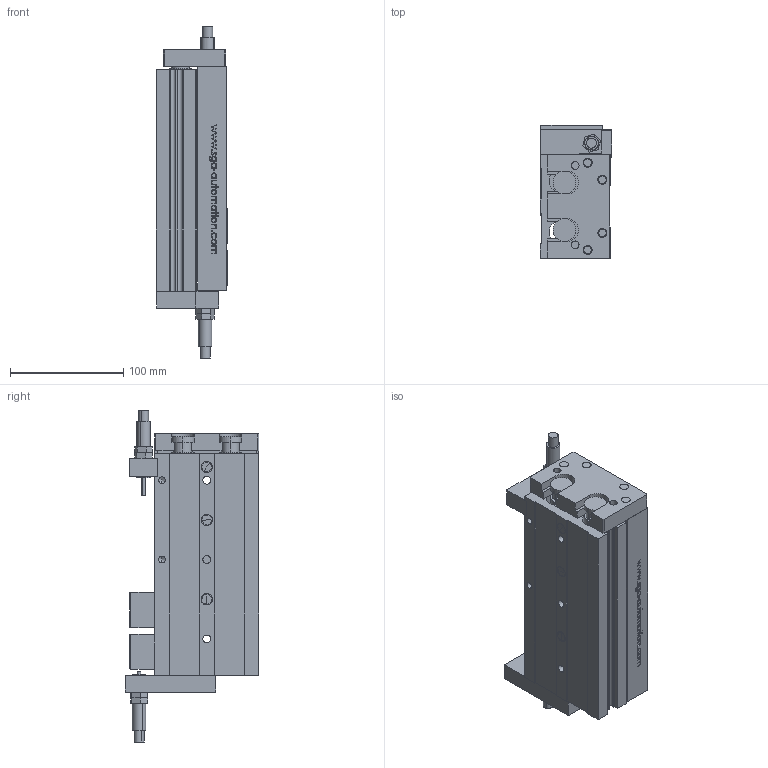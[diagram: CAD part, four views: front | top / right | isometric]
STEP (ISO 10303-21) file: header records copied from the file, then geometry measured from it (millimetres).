
FILE_DESCRIPTION (( 'STEP AP203' ), '1' );
FILE_NAME ('GDX25-100.STEP', '2013-02-28T11:00:52', ( 'Conseil Régional Haute-Normandie' ), ( 'Conseil Régional Haute-Normandie' ), 'SwSTEP 2.0', 'SolidWorks 2010', '' );
FILE_SCHEMA (( 'CONFIG_CONTROL_DESIGN' ));
Length unit declared in the file: millimetre
Products named in the file (18): Pièce5 GDX25-100_Default; Pièce1 GDX25-10_Default; Pièce8 tige amortisseur GDX25-10_Default; Pièce4 GDX25-10_Default; Pièce2 GDX25-10 Vis pièce1_Default; GDX25-100; Pièce6 GDX25-100_Default; Pièce4_Default; Pièce3 GDX25-100_Default; Pièce2 GDX25-100_Default; Pièce3 GDX25-10_Default; Pièce5 GDX25-10_Default; Pièce6 boulon GDX25-10_Default; Pièce7 amortisseur GDX25-10_Default; Pièce10 GDX25-10_Default; Pièce11 GDX25-10_Default; Pièce16 GDX 25-10_Default; Pièce17 GDX 25-10_Default
Assembly tree (39 placements, depth 2):
  GDX25-100
    Pièce11 GDX25-10_Default  x2
    Pièce4_Default
    Pièce17 GDX 25-10_Default  x10
    Pièce6 boulon GDX25-10_Default  x4
    Pièce2 GDX25-100_Default
    Pièce2 GDX25-10 Vis pièce1_Default  x3
    Pièce6 GDX25-100_Default
    Pièce3 GDX25-10_Default
    Pièce10 GDX25-10_Default  x2
    Pièce8 tige amortisseur GDX25-10_Default  x2
    Pièce16 GDX 25-10_Default  x4
    Pièce5 GDX25-100_Default
    Pièce3 GDX25-100_Default
    Pièce5 GDX25-10_Default
    Pièce1 GDX25-10_Default
    Pièce7 amortisseur GDX25-10_Default  x2
    Pièce4 GDX25-10_Default  x2
Bounding box: 63.5 x 118 x 293.03 mm (x, y, z)
Volume: 1062556.9 mm3; surface area: 259907 mm2
Topology: 42 solids, 42 shells, 935 faces, 2305 edges, 1477 vertices
Faces by surface type: plane 449, cylinder 264, bspline 133, cone 81, torus 8
Entity records: 35191 total; most frequent: CARTESIAN_POINT 15309, ORIENTED_EDGE 3718, DIRECTION 3233, EDGE_CURVE 1859, VERTEX_POINT 1225, VECTOR 1195, LINE 1195, AXIS2_PLACEMENT_3D 1019
